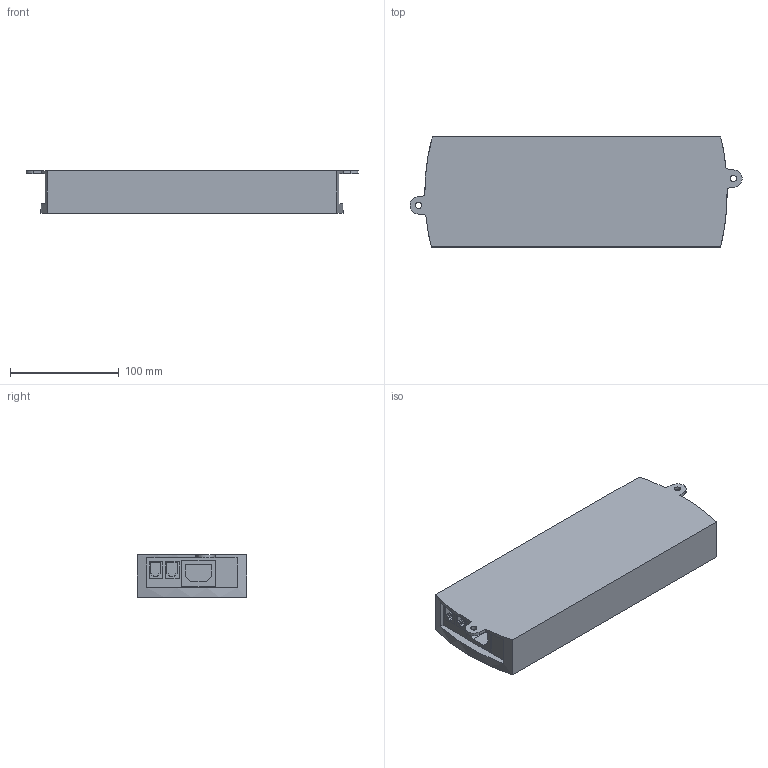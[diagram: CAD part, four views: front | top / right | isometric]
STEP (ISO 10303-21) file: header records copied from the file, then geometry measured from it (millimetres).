
FILE_DESCRIPTION( ( 'STEP AP214' ), '1' );
FILE_NAME( 'C:/Users/KOSH/Desktop/New folder/9309942.stp', '2022-01-27T11:11:24', ( '' ), ( '' ), ' ', 'PARTsolutions', ' ' );
FILE_SCHEMA( ( 'AUTOMOTIVE_DESIGN { 1 0 10303 214 1 1 1 1 }' ) );
Length unit declared in the file: millimetre
Products named in the file (1): _9309942
Bounding box: 305.84 x 101.3 x 39.5 mm (x, y, z)
Volume: 1056876.9 mm3; surface area: 94280.2 mm2
Topology: 1 solids, 1 shells, 207 faces, 516 edges, 344 vertices
Faces by surface type: plane 201, cylinder 6
Full cylindrical faces by diameter (mm): 5.718 x1, 5.77 x1
Entity records: 7720 total; most frequent: CARTESIAN_POINT 1066, ORIENTED_EDGE 1028, DIRECTION 950, EDGE_CURVE 514, LINE 494, VECTOR 494, VERTEX_POINT 344, EDGE_LOOP 246
